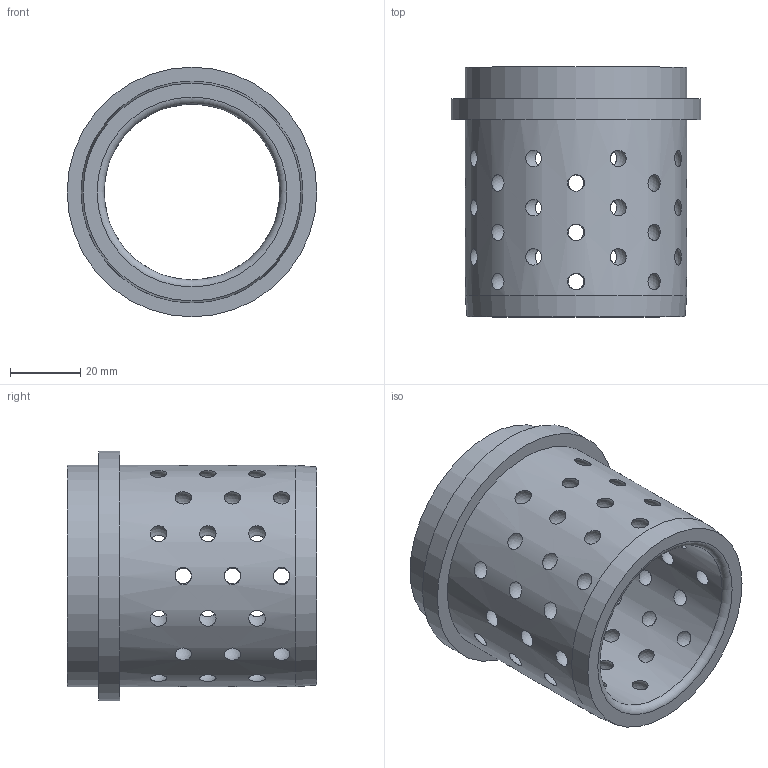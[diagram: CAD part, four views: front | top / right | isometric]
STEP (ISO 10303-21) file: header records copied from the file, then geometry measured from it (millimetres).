
FILE_DESCRIPTION( ( 'STEP AP203' ), '1' );
FILE_NAME( 'D:/Cuma/23 02 2009/D30 Serisi/D30_5071.step', '2002-12-31T23:00:21', ( ' ' ), ( ' ' ), 'XStep 1.0', ' ', ' ' );
FILE_SCHEMA( ( 'CONFIG_CONTROL_DESIGN' ) );
Length unit declared in the file: metre
Products named in the file (1): 1
Bounding box: 71 x 71 x 71 mm (x, y, z)
Volume: 73421.9 mm3; surface area: 34986.4 mm2
Topology: 1 solids, 1 shells, 59 faces, 224 edges, 163 vertices
Faces by surface type: sphere 48, plane 4, cylinder 4, torus 2, cone 1
Full cylindrical faces by diameter (mm): 50 x1, 63 x2, 71 x1
Entity records: 7185 total; most frequent: CARTESIAN_POINT 5842, EDGE_LOOP 214, ORIENTED_EDGE 214, FACE_BOUND 197, DIRECTION 142, EDGE_CURVE 107, VERTEX_POINT 107, B_SPLINE_CURVE_WITH_KNOTS 96
